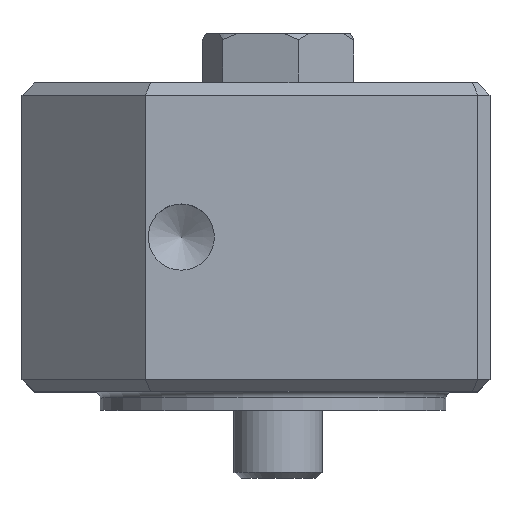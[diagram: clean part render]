
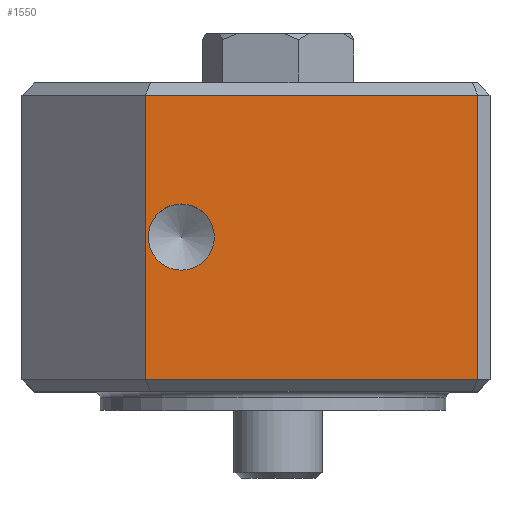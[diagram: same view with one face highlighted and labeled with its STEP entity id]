
A CAD part, top view. The second image highlights one B-rep face of the part: STEP entity #1550.
In plain terms, the highlighted planar face has unit normal (0, 0, 1).
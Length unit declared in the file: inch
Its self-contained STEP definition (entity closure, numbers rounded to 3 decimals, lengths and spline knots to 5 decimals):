
#29=FACE_BOUND('',#231,.T.);
#57=PLANE('',#1674);
#141=FACE_OUTER_BOUND('',#230,.T.);
#230=EDGE_LOOP('',(#1072,#1073,#1074,#1075));
#231=EDGE_LOOP('',(#1076,#1077));
#328=CIRCLE('',#1655,0.1055);
#329=CIRCLE('',#1656,0.1055);
#436=LINE('',#2379,#539);
#450=LINE('',#2406,#553);
#453=LINE('',#2412,#556);
#454=LINE('',#2413,#557);
#539=VECTOR('',#1893,0.3937);
#553=VECTOR('',#1921,0.3937);
#556=VECTOR('',#1926,0.3937);
#557=VECTOR('',#1927,0.3937);
#638=VERTEX_POINT('',#2342);
#639=VERTEX_POINT('',#2344);
#652=VERTEX_POINT('',#2377);
#653=VERTEX_POINT('',#2378);
#659=VERTEX_POINT('',#2405);
#661=VERTEX_POINT('',#2411);
#793=EDGE_CURVE('',#639,#638,#328,.T.);
#794=EDGE_CURVE('',#638,#639,#329,.T.);
#809=EDGE_CURVE('',#652,#653,#436,.T.);
#823=EDGE_CURVE('',#659,#653,#450,.T.);
#826=EDGE_CURVE('',#661,#652,#453,.T.);
#827=EDGE_CURVE('',#659,#661,#454,.T.);
#1072=ORIENTED_EDGE('',*,*,#809,.F.);
#1073=ORIENTED_EDGE('',*,*,#826,.F.);
#1074=ORIENTED_EDGE('',*,*,#827,.F.);
#1075=ORIENTED_EDGE('',*,*,#823,.T.);
#1076=ORIENTED_EDGE('',*,*,#793,.T.);
#1077=ORIENTED_EDGE('',*,*,#794,.T.);
#1550=ADVANCED_FACE('',(#141,#29),#57,.T.);
#1655=AXIS2_PLACEMENT_3D('',#2345,#1861,#1862);
#1656=AXIS2_PLACEMENT_3D('',#2346,#1863,#1864);
#1674=AXIS2_PLACEMENT_3D('',#2410,#1924,#1925);
#1861=DIRECTION('center_axis',(0.,0.,
-1.));
#1862=DIRECTION('ref_axis',(1.,0.,0.));
#1863=DIRECTION('center_axis',(0.,0.,
-1.));
#1864=DIRECTION('ref_axis',(1.,0.,0.));
#1893=DIRECTION('',(-1.,0.,0.));
#1921=DIRECTION('',(0.,-1.,0.));
#1924=DIRECTION('center_axis',(0.,0.,
1.));
#1925=DIRECTION('ref_axis',(1.,0.,0.));
#1926=DIRECTION('',(0.,-1.,0.));
#1927=DIRECTION('',(1.,0.,0.));
#2342=CARTESIAN_POINT('',(0.06773,0.,1.62992));
#2344=CARTESIAN_POINT('',(0.27873,0.,1.62992));
#2345=CARTESIAN_POINT('Origin',(0.17323,0.,
1.62992));
#2346=CARTESIAN_POINT('Origin',(0.17323,0.,
1.62992));
#2377=CARTESIAN_POINT('',(1.11811,-0.45276,1.62992));
#2378=CARTESIAN_POINT('',(0.05906,-0.45276,1.62992));
#2379=CARTESIAN_POINT('',(-0.11811,-0.45276,1.62992));
#2405=CARTESIAN_POINT('',(0.05906,0.45276,1.62992));
#2406=CARTESIAN_POINT('',(0.05906,-0.02953,1.62992));
#2410=CARTESIAN_POINT('Origin',(-0.33465,-0.55118,1.62992));
#2411=CARTESIAN_POINT('',(1.11811,0.45276,1.62992));
#2412=CARTESIAN_POINT('',(1.11811,-0.55118,1.62992));
#2413=CARTESIAN_POINT('',(0.03839,0.45276,1.62992));
